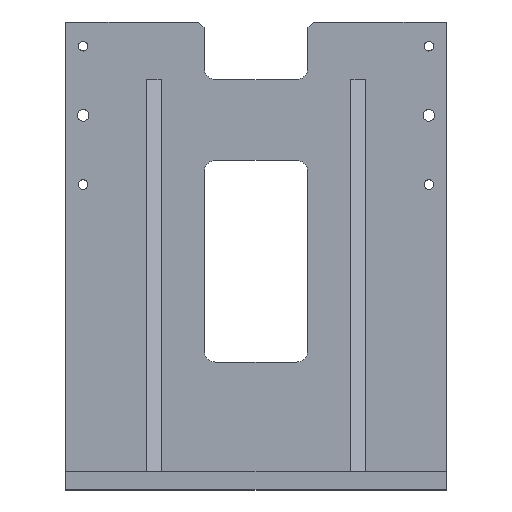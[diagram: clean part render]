
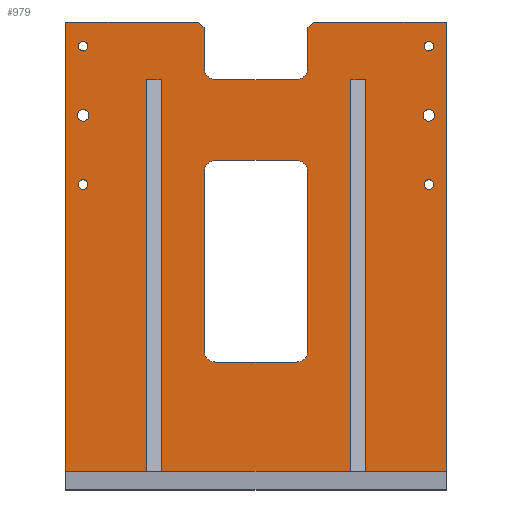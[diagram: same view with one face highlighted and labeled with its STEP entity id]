
A CAD part, top view. The second image highlights one B-rep face of the part: STEP entity #979.
In plain terms, the highlighted planar face has unit normal (0, 0, 1).
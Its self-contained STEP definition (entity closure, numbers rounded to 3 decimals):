
#19=FACE_BOUND($,#149,.T.);
#20=FACE_BOUND($,#150,.T.);
#21=FACE_BOUND($,#151,.T.);
#22=FACE_BOUND($,#152,.T.);
#23=FACE_BOUND($,#153,.T.);
#24=FACE_BOUND($,#154,.T.);
#25=FACE_BOUND($,#155,.T.);
#26=FACE_BOUND($,#156,.T.);
#65=PLANE($,#1047);
#149=EDGE_LOOP($,(#739,#740,#741,#742,#743,#744,#745,#746));
#150=EDGE_LOOP($,(#747,#748,#749,#750,#751,#752,#753,#754,#755,#756,#757,
#758,#759,#760,#761,#762,#763,#764,#765,#766));
#151=EDGE_LOOP($,(#767));
#152=EDGE_LOOP($,(#768));
#153=EDGE_LOOP($,(#769));
#154=EDGE_LOOP($,(#770));
#155=EDGE_LOOP($,(#771));
#156=EDGE_LOOP($,(#772));
#215=LINE($,#1371,#305);
#218=LINE($,#1382,#308);
#223=LINE($,#1395,#313);
#225=LINE($,#1403,#315);
#244=LINE($,#1458,#334);
#248=LINE($,#1464,#338);
#250=LINE($,#1469,#340);
#252=LINE($,#1473,#342);
#256=LINE($,#1484,#346);
#257=LINE($,#1487,#347);
#258=LINE($,#1489,#348);
#259=LINE($,#1491,#349);
#260=LINE($,#1493,#350);
#261=LINE($,#1495,#351);
#262=LINE($,#1497,#352);
#263=LINE($,#1499,#353);
#264=LINE($,#1501,#354);
#265=LINE($,#1503,#355);
#266=LINE($,#1505,#356);
#267=LINE($,#1507,#357);
#268=LINE($,#1509,#358);
#269=LINE($,#1510,#359);
#305=VECTOR($,#1110,155.);
#308=VECTOR($,#1121,70.);
#313=VECTOR($,#1134,70.);
#315=VECTOR($,#1144,155.);
#334=VECTOR($,#1187,7.071);
#338=VECTOR($,#1193,35.);
#340=VECTOR($,#1197,7.071);
#342=VECTOR($,#1201,35.);
#346=VECTOR($,#1215,70.);
#347=VECTOR($,#1218,115.);
#348=VECTOR($,#1219,390.);
#349=VECTOR($,#1220,70.);
#350=VECTOR($,#1221,340.);
#351=VECTOR($,#1222,12.7);
#352=VECTOR($,#1223,340.);
#353=VECTOR($,#1224,164.6);
#354=VECTOR($,#1225,340.);
#355=VECTOR($,#1226,12.7);
#356=VECTOR($,#1227,340.);
#357=VECTOR($,#1228,70.);
#358=VECTOR($,#1229,390.);
#359=VECTOR($,#1230,115.);
#390=CIRCLE($,#1013,10.);
#392=CIRCLE($,#1017,10.);
#394=CIRCLE($,#1021,10.);
#396=CIRCLE($,#1025,10.);
#405=CIRCLE($,#1043,10.);
#406=CIRCLE($,#1045,10.);
#407=CIRCLE($,#1048,5.);
#408=CIRCLE($,#1049,5.);
#409=CIRCLE($,#1050,4.188);
#410=CIRCLE($,#1051,4.188);
#411=CIRCLE($,#1052,4.188);
#412=CIRCLE($,#1053,4.188);
#427=VERTEX_POINT($,#1357);
#428=VERTEX_POINT($,#1359);
#432=VERTEX_POINT($,#1369);
#435=VERTEX_POINT($,#1376);
#436=VERTEX_POINT($,#1378);
#438=VERTEX_POINT($,#1387);
#440=VERTEX_POINT($,#1393);
#442=VERTEX_POINT($,#1399);
#465=VERTEX_POINT($,#1456);
#466=VERTEX_POINT($,#1457);
#467=VERTEX_POINT($,#1462);
#468=VERTEX_POINT($,#1466);
#469=VERTEX_POINT($,#1468);
#470=VERTEX_POINT($,#1472);
#471=VERTEX_POINT($,#1476);
#472=VERTEX_POINT($,#1480);
#473=VERTEX_POINT($,#1486);
#474=VERTEX_POINT($,#1488);
#475=VERTEX_POINT($,#1490);
#476=VERTEX_POINT($,#1492);
#477=VERTEX_POINT($,#1494);
#478=VERTEX_POINT($,#1496);
#479=VERTEX_POINT($,#1498);
#480=VERTEX_POINT($,#1500);
#481=VERTEX_POINT($,#1502);
#482=VERTEX_POINT($,#1504);
#483=VERTEX_POINT($,#1506);
#484=VERTEX_POINT($,#1508);
#485=VERTEX_POINT($,#1511);
#486=VERTEX_POINT($,#1513);
#487=VERTEX_POINT($,#1515);
#488=VERTEX_POINT($,#1517);
#489=VERTEX_POINT($,#1519);
#490=VERTEX_POINT($,#1521);
#519=EDGE_CURVE($,#427,#428,#390,.T.);
#525=EDGE_CURVE($,#427,#432,#215,.T.);
#528=EDGE_CURVE($,#435,#436,#392,.T.);
#530=EDGE_CURVE($,#435,#428,#218,.T.);
#534=EDGE_CURVE($,#438,#432,#394,.T.);
#537=EDGE_CURVE($,#438,#440,#223,.T.);
#540=EDGE_CURVE($,#442,#440,#396,.T.);
#541=EDGE_CURVE($,#442,#436,#225,.T.);
#568=EDGE_CURVE($,#465,#466,#244,.T.);
#572=EDGE_CURVE($,#465,#467,#248,.T.);
#574=EDGE_CURVE($,#468,#469,#250,.T.);
#576=EDGE_CURVE($,#470,#469,#252,.T.);
#578=EDGE_CURVE($,#471,#467,#405,.T.);
#580=EDGE_CURVE($,#470,#472,#406,.T.);
#582=EDGE_CURVE($,#471,#472,#256,.T.);
#583=EDGE_CURVE($,#468,#473,#257,.T.);
#584=EDGE_CURVE($,#473,#474,#258,.T.);
#585=EDGE_CURVE($,#474,#475,#259,.T.);
#586=EDGE_CURVE($,#475,#476,#260,.T.);
#587=EDGE_CURVE($,#476,#477,#261,.T.);
#588=EDGE_CURVE($,#477,#478,#262,.T.);
#589=EDGE_CURVE($,#478,#479,#263,.T.);
#590=EDGE_CURVE($,#479,#480,#264,.T.);
#591=EDGE_CURVE($,#480,#481,#265,.T.);
#592=EDGE_CURVE($,#481,#482,#266,.T.);
#593=EDGE_CURVE($,#482,#483,#267,.T.);
#594=EDGE_CURVE($,#483,#484,#268,.T.);
#595=EDGE_CURVE($,#484,#466,#269,.T.);
#596=EDGE_CURVE($,#485,#485,#407,.T.);
#597=EDGE_CURVE($,#486,#486,#408,.T.);
#598=EDGE_CURVE($,#487,#487,#409,.T.);
#599=EDGE_CURVE($,#488,#488,#410,.T.);
#600=EDGE_CURVE($,#489,#489,#411,.T.);
#601=EDGE_CURVE($,#490,#490,#412,.T.);
#739=ORIENTED_EDGE($,*,*,#525,.T.);
#740=ORIENTED_EDGE($,*,*,#534,.F.);
#741=ORIENTED_EDGE($,*,*,#537,.T.);
#742=ORIENTED_EDGE($,*,*,#540,.F.);
#743=ORIENTED_EDGE($,*,*,#541,.T.);
#744=ORIENTED_EDGE($,*,*,#528,.F.);
#745=ORIENTED_EDGE($,*,*,#530,.T.);
#746=ORIENTED_EDGE($,*,*,#519,.F.);
#747=ORIENTED_EDGE($,*,*,#568,.F.);
#748=ORIENTED_EDGE($,*,*,#572,.T.);
#749=ORIENTED_EDGE($,*,*,#578,.F.);
#750=ORIENTED_EDGE($,*,*,#582,.T.);
#751=ORIENTED_EDGE($,*,*,#580,.F.);
#752=ORIENTED_EDGE($,*,*,#576,.T.);
#753=ORIENTED_EDGE($,*,*,#574,.F.);
#754=ORIENTED_EDGE($,*,*,#583,.T.);
#755=ORIENTED_EDGE($,*,*,#584,.T.);
#756=ORIENTED_EDGE($,*,*,#585,.T.);
#757=ORIENTED_EDGE($,*,*,#586,.T.);
#758=ORIENTED_EDGE($,*,*,#587,.T.);
#759=ORIENTED_EDGE($,*,*,#588,.T.);
#760=ORIENTED_EDGE($,*,*,#589,.T.);
#761=ORIENTED_EDGE($,*,*,#590,.T.);
#762=ORIENTED_EDGE($,*,*,#591,.T.);
#763=ORIENTED_EDGE($,*,*,#592,.T.);
#764=ORIENTED_EDGE($,*,*,#593,.T.);
#765=ORIENTED_EDGE($,*,*,#594,.T.);
#766=ORIENTED_EDGE($,*,*,#595,.T.);
#767=ORIENTED_EDGE($,*,*,#596,.T.);
#768=ORIENTED_EDGE($,*,*,#597,.T.);
#769=ORIENTED_EDGE($,*,*,#598,.T.);
#770=ORIENTED_EDGE($,*,*,#599,.T.);
#771=ORIENTED_EDGE($,*,*,#600,.T.);
#772=ORIENTED_EDGE($,*,*,#601,.T.);
#979=ADVANCED_FACE($,(#19,#20,#21,#22,#23,#24,#25,#26),#65,.T.);
#1013=AXIS2_PLACEMENT_3D($,#1360,#1101,#1102);
#1017=AXIS2_PLACEMENT_3D($,#1379,#1116,#1117);
#1021=AXIS2_PLACEMENT_3D($,#1389,#1128,#1129);
#1025=AXIS2_PLACEMENT_3D($,#1401,#1140,#1141);
#1043=AXIS2_PLACEMENT_3D($,#1477,#1205,#1206);
#1045=AXIS2_PLACEMENT_3D($,#1481,#1210,#1211);
#1047=AXIS2_PLACEMENT_3D($,#1485,#1216,#1217);
#1048=AXIS2_PLACEMENT_3D($,#1512,#1231,#1232);
#1049=AXIS2_PLACEMENT_3D($,#1514,#1233,#1234);
#1050=AXIS2_PLACEMENT_3D($,#1516,#1235,#1236);
#1051=AXIS2_PLACEMENT_3D($,#1518,#1237,#1238);
#1052=AXIS2_PLACEMENT_3D($,#1520,#1239,#1240);
#1053=AXIS2_PLACEMENT_3D($,#1522,#1241,#1242);
#1101=DIRECTION('center_axis',(0.,0.,1.));
#1102=DIRECTION('ref_axis',(-0.707,-0.707,0.));
#1110=DIRECTION($,(0.,1.,0.));
#1116=DIRECTION('center_axis',(0.,0.,1.));
#1117=DIRECTION('ref_axis',(0.707,-0.707,0.));
#1121=DIRECTION($,(-1.,0.,0.));
#1128=DIRECTION('center_axis',(0.,0.,1.));
#1129=DIRECTION('ref_axis',(-0.707,0.707,0.));
#1134=DIRECTION($,(1.,0.,0.));
#1140=DIRECTION('center_axis',(0.,0.,1.));
#1141=DIRECTION('ref_axis',(0.707,0.707,0.));
#1144=DIRECTION($,(0.,-1.,0.));
#1187=DIRECTION($,(0.707,0.707,0.));
#1193=DIRECTION($,(0.,-1.,0.));
#1197=DIRECTION($,(0.707,-0.707,0.));
#1201=DIRECTION($,(0.,1.,0.));
#1205=DIRECTION('center_axis',(0.,0.,1.));
#1206=DIRECTION('ref_axis',(0.707,-0.707,0.));
#1210=DIRECTION('center_axis',(0.,0.,1.));
#1211=DIRECTION('ref_axis',(-0.707,-0.707,0.));
#1215=DIRECTION($,(-1.,0.,0.));
#1216=DIRECTION('center_axis',(0.,0.,1.));
#1217=DIRECTION('ref_axis',(1.,0.,0.));
#1218=DIRECTION($,(-1.,0.,0.));
#1219=DIRECTION($,(0.,-1.,0.));
#1220=DIRECTION($,(1.,0.,0.));
#1221=DIRECTION($,(0.,1.,0.));
#1222=DIRECTION($,(1.,0.,0.));
#1223=DIRECTION($,(0.,-1.,0.));
#1224=DIRECTION($,(1.,0.,0.));
#1225=DIRECTION($,(0.,1.,0.));
#1226=DIRECTION($,(1.,0.,0.));
#1227=DIRECTION($,(0.,-1.,0.));
#1228=DIRECTION($,(1.,0.,0.));
#1229=DIRECTION($,(0.,1.,0.));
#1230=DIRECTION($,(-1.,0.,0.));
#1231=DIRECTION('center_axis',(0.,0.,-1.));
#1232=DIRECTION('ref_axis',(-1.,0.,0.));
#1233=DIRECTION('center_axis',(0.,0.,-1.));
#1234=DIRECTION('ref_axis',(-1.,0.,0.));
#1235=DIRECTION('center_axis',(0.,0.,-1.));
#1236=DIRECTION('ref_axis',(-1.,0.,0.));
#1237=DIRECTION('center_axis',(0.,0.,-1.));
#1238=DIRECTION('ref_axis',(-1.,0.,0.));
#1239=DIRECTION('center_axis',(0.,0.,-1.));
#1240=DIRECTION('ref_axis',(-1.,0.,0.));
#1241=DIRECTION('center_axis',(0.,0.,-1.));
#1242=DIRECTION('ref_axis',(-1.,0.,0.));
#1357=CARTESIAN_POINT('',(-45.,-90.,19.05));
#1359=CARTESIAN_POINT('',(-35.,-100.,19.05));
#1360=CARTESIAN_POINT('Origin',(-35.,-90.,19.05));
#1369=CARTESIAN_POINT('',(-45.,65.,19.05));
#1371=CARTESIAN_POINT($,(-45.,37.5,19.05));
#1376=CARTESIAN_POINT('',(35.,-100.,19.05));
#1378=CARTESIAN_POINT('',(45.,-90.,19.05));
#1379=CARTESIAN_POINT('Origin',(35.,-90.,19.05));
#1382=CARTESIAN_POINT($,(-22.5,-100.,19.05));
#1387=CARTESIAN_POINT('',(-35.,75.,19.05));
#1389=CARTESIAN_POINT('Origin',(-35.,65.,19.05));
#1393=CARTESIAN_POINT('',(35.,75.,19.05));
#1395=CARTESIAN_POINT($,(22.5,75.,19.05));
#1399=CARTESIAN_POINT('',(45.,65.,19.05));
#1401=CARTESIAN_POINT('Origin',(35.,65.,19.05));
#1403=CARTESIAN_POINT($,(45.,-50.,19.05));
#1456=CARTESIAN_POINT('',(45.,190.,19.05));
#1457=CARTESIAN_POINT('',(50.,195.,19.05));
#1458=CARTESIAN_POINT($,(-12.5,132.5,19.05));
#1462=CARTESIAN_POINT('',(45.,155.,19.05));
#1464=CARTESIAN_POINT($,(45.,97.5,19.05));
#1466=CARTESIAN_POINT('',(-50.,195.,19.05));
#1468=CARTESIAN_POINT('',(-45.,190.,19.05));
#1469=CARTESIAN_POINT($,(12.5,132.5,19.05));
#1472=CARTESIAN_POINT('',(-45.,155.,19.05));
#1473=CARTESIAN_POINT($,(-45.,72.5,19.05));
#1476=CARTESIAN_POINT('',(35.,145.,19.05));
#1477=CARTESIAN_POINT('Origin',(35.,155.,19.05));
#1480=CARTESIAN_POINT('',(-35.,145.,19.05));
#1481=CARTESIAN_POINT('Origin',(-35.,155.,19.05));
#1484=CARTESIAN_POINT($,(22.5,145.,19.05));
#1485=CARTESIAN_POINT('Origin',(0.,0.,
19.05));
#1486=CARTESIAN_POINT('',(-165.,195.,19.05));
#1487=CARTESIAN_POINT($,(-165.,195.,19.05));
#1488=CARTESIAN_POINT('',(-165.,-195.,19.05));
#1489=CARTESIAN_POINT($,(-165.,-195.,19.05));
#1490=CARTESIAN_POINT('',(-95.,-195.,19.05));
#1491=CARTESIAN_POINT($,(165.,-195.,19.05));
#1492=CARTESIAN_POINT('',(-95.,145.,19.05));
#1493=CARTESIAN_POINT($,(-95.,-25.507,19.05));
#1494=CARTESIAN_POINT('',(-82.3,145.,19.05));
#1495=CARTESIAN_POINT($,(-47.5,145.,19.05));
#1496=CARTESIAN_POINT('',(-82.3,-195.,19.05));
#1497=CARTESIAN_POINT($,(-82.3,-25.507,19.05));
#1498=CARTESIAN_POINT('',(82.3,-195.,19.05));
#1499=CARTESIAN_POINT($,(165.,-195.,19.05));
#1500=CARTESIAN_POINT('',(82.3,145.,19.05));
#1501=CARTESIAN_POINT($,(82.3,-25.507,19.05));
#1502=CARTESIAN_POINT('',(95.,145.,19.05));
#1503=CARTESIAN_POINT($,(47.5,145.,19.05));
#1504=CARTESIAN_POINT('',(95.,-195.,19.05));
#1505=CARTESIAN_POINT($,(95.,-25.507,19.05));
#1506=CARTESIAN_POINT('',(165.,-195.,19.05));
#1507=CARTESIAN_POINT($,(165.,-195.,19.05));
#1508=CARTESIAN_POINT('',(165.,195.,19.05));
#1509=CARTESIAN_POINT($,(165.,195.,19.05));
#1510=CARTESIAN_POINT($,(-165.,195.,19.05));
#1511=CARTESIAN_POINT('',(-145.,114.,19.05));
#1512=CARTESIAN_POINT('Origin',(-150.,114.,19.05));
#1513=CARTESIAN_POINT('',(155.,114.,19.05));
#1514=CARTESIAN_POINT('Origin',(150.,114.,19.05));
#1515=CARTESIAN_POINT('',(-145.812,54.,19.05));
#1516=CARTESIAN_POINT('Origin',(-150.,54.,19.05));
#1517=CARTESIAN_POINT('',(154.188,174.,19.05));
#1518=CARTESIAN_POINT('Origin',(150.,174.,19.05));
#1519=CARTESIAN_POINT('',(154.188,54.,19.05));
#1520=CARTESIAN_POINT('Origin',(150.,54.,19.05));
#1521=CARTESIAN_POINT('',(-145.812,174.,19.05));
#1522=CARTESIAN_POINT('Origin',(-150.,174.,19.05));
